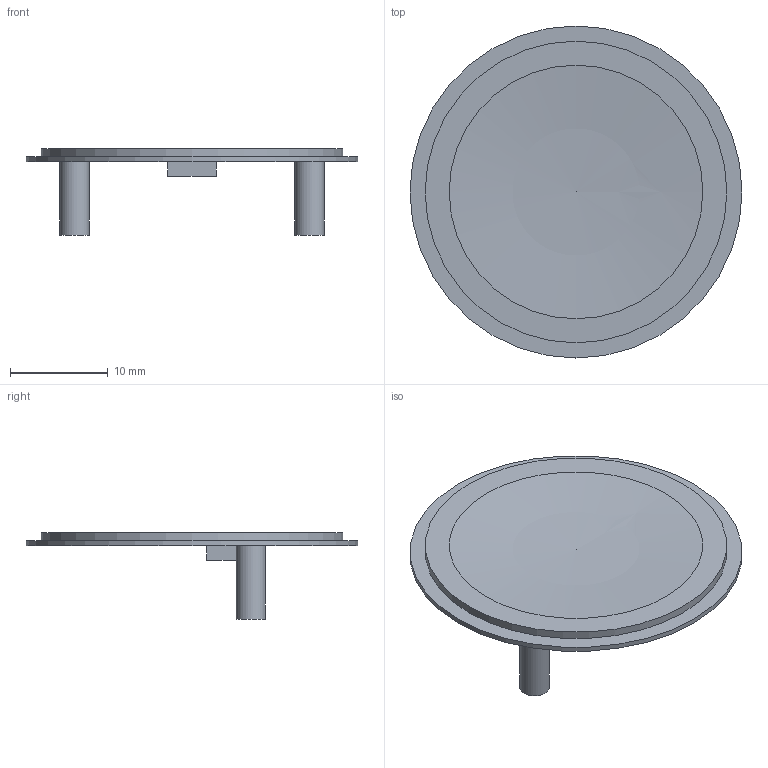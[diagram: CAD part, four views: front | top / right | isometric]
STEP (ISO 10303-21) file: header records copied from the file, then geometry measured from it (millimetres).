
FILE_DESCRIPTION(('Open CASCADE Model'),'2;1');
FILE_NAME('Open CASCADE Shape Model','2026-09-06T11:30:36',('Author'),( 'Open CASCADE'),'Open CASCADE STEP processor 7.7','Open CASCADE 7.7' ,'Unknown');
FILE_SCHEMA(('AUTOMOTIVE_DESIGN { 1 0 10303 214 1 1 1 1 }'));
Length unit declared in the file: millimetre
Products named in the file (1): Open CASCADE STEP translator 7.7 14
Bounding box: 33.9 x 33.9 x 8.8 mm (x, y, z)
Volume: 1032.8 mm3; surface area: 2108.3 mm2
Topology: 1 solids, 1 shells, 15 faces, 27 edges, 18 vertices
Faces by surface type: plane 10, cylinder 4, sphere 1
Full cylindrical faces by diameter (mm): 3 x2, 30.8 x1, 33.9 x1
Entity records: 758 total; most frequent: CARTESIAN_POINT 160, DIRECTION 118, LINE 57, VECTOR 57, ORIENTED_EDGE 52, PCURVE 52, DEFINITIONAL_REPRESENTATION 52, AXIS2_PLACEMENT_3D 26
